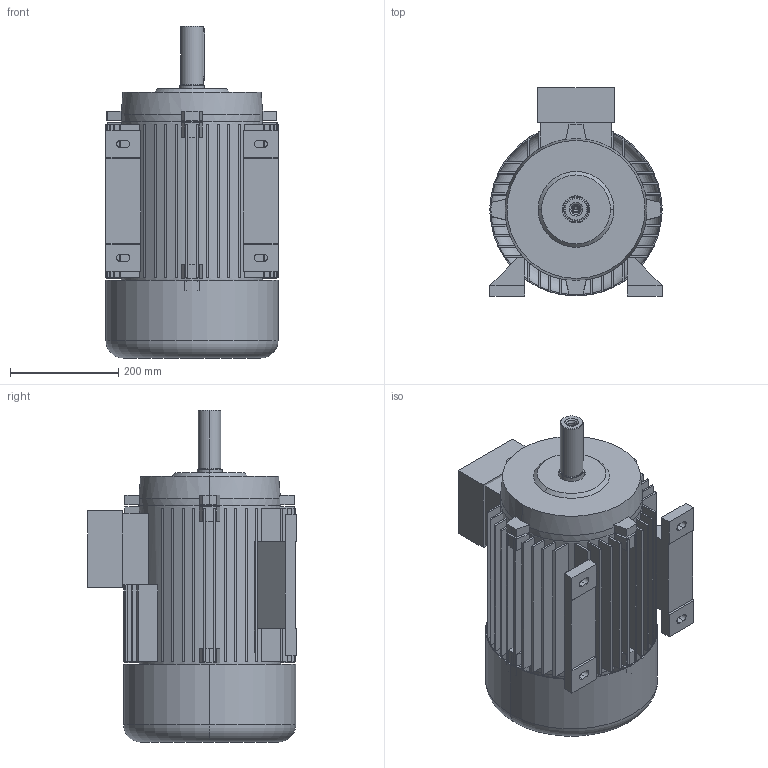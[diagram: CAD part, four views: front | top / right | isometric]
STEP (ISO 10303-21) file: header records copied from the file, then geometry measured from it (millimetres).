
FILE_DESCRIPTION (( 'STEP AP203' ), '1' );
FILE_NAME ('5AZ 160M B3 STANDK.STEP', '2017-11-10T11:08:37', ( '' ), ( '' ), 'SwSTEP 2.0', 'SolidWorks 2017', '' );
FILE_SCHEMA (( 'CONFIG_CONTROL_DESIGN' ));
Length unit declared in the file: millimetre
Products named in the file (1): 5AZ 160M B3 STANDK
Bounding box: 318 x 385 x 613 mm (x, y, z)
Volume: 10717945.9 mm3; surface area: 2260380.3 mm2
Topology: 7 solids, 7 shells, 453 faces, 1174 edges, 773 vertices
Faces by surface type: plane 308, cylinder 119, cone 22, torus 4
Entity records: 14101 total; most frequent: CARTESIAN_POINT 2535, DIRECTION 2486, ORIENTED_EDGE 2344, EDGE_CURVE 1172, AXIS2_PLACEMENT_3D 880, VERTEX_POINT 773, LINE 726, VECTOR 726
